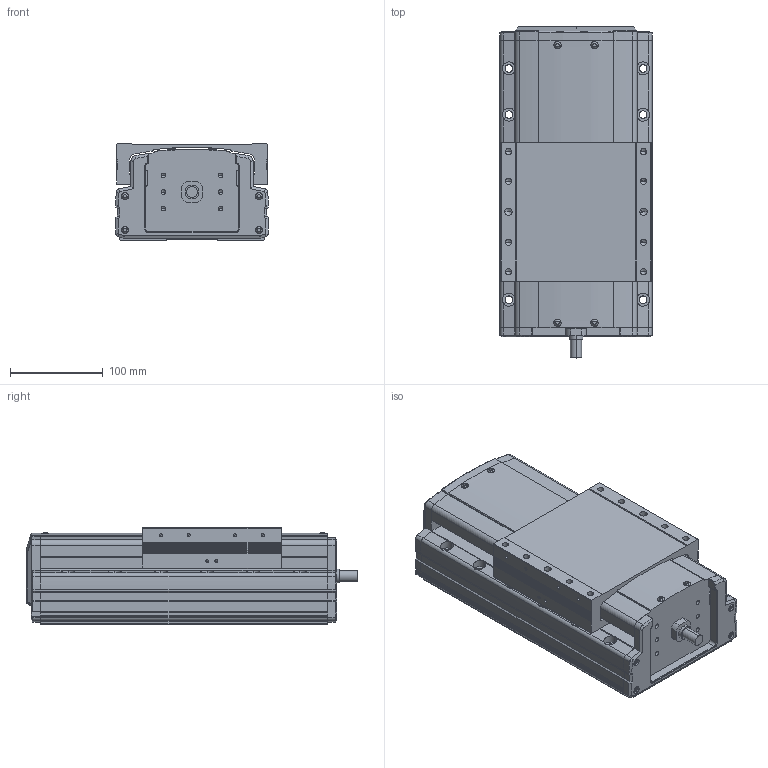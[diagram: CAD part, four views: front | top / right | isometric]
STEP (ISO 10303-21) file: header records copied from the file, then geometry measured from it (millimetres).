
FILE_DESCRIPTION(('STEP AP214'),'1');
FILE_NAME('Z:/Web/3D/PSA165/STP/PSA165-050 (3D)/PSA165ㅁㅁ-050.stp','2014-06-23T06:13:29',(' '),(' '),'Spatial InterOp 3D',' ',' ');
FILE_SCHEMA(('automotive_design'));
Length unit declared in the file: millimetre
Products named in the file (18): 스크루 : Round - M4.0 x 12.0; RRCV-PA160; BASE; 스크루 : Round - M4.0 x 10.0; RN15; Screw 20; SLIDE; FRCV
Bounding box: 165 x 358.8 x 104 mm (x, y, z)
Volume: 4757738.9 mm3; surface area: 406846.6 mm2
Topology: 18 solids, 18 shells, 1773 faces, 4805 edges, 3080 vertices
Faces by surface type: plane 1020, cylinder 537, cone 143, sphere 32, bspline 25, torus 16
Entity records: 72698 total; most frequent: CARTESIAN_POINT 13224, ORIENTED_EDGE 9410, DIRECTION 9383, EDGE_CURVE 4705, LINE 3277, VECTOR 3277, VERTEX_POINT 3080, AXIS2_PLACEMENT_3D 3053
